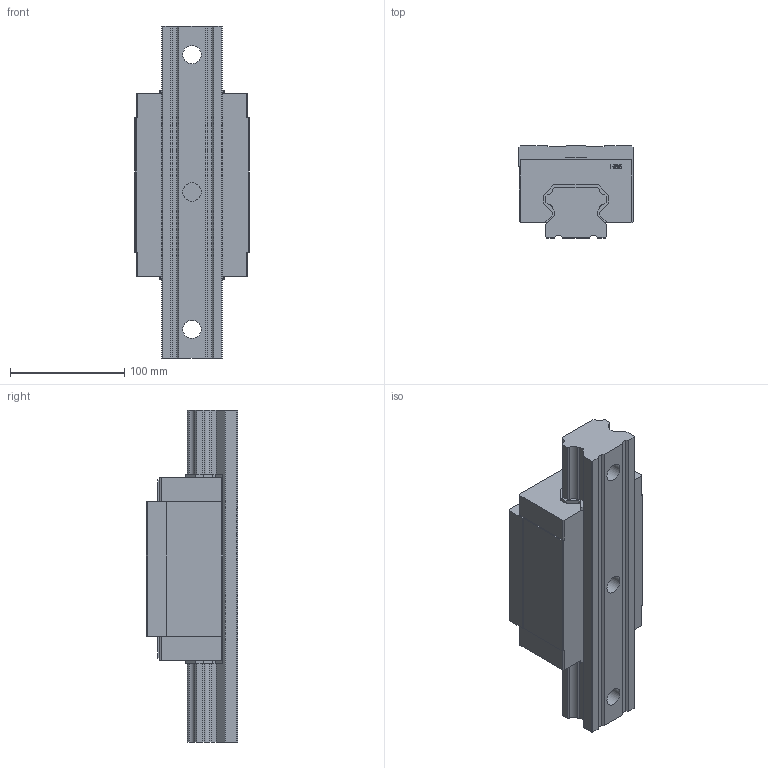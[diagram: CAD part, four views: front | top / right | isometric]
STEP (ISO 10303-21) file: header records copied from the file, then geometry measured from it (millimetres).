
FILE_DESCRIPTION(/* description */ (''),/* implementation_level */ '2;1');
FILE_NAME(/* name */ 'HGH55CA.stp',/* time_stamp */ '2021-05-25T20:55:25+08:00',/* author */ (''),/* organization */ (''),/* preprocessor_version */ 'ST-DEVELOPER v15',/* originating_system */ 'SIEMENS PLM Software NX 8.5',/* authorisation */ '');
FILE_SCHEMA (('CONFIG_CONTROL_DESIGN'));
Length unit declared in the file: millimetre
Products named in the file (1): _model1
Bounding box: 100 x 80 x 290 mm (x, y, z)
Volume: 1333828 mm3; surface area: 148862.3 mm2
Topology: 3 solids, 3 shells, 204 faces, 574 edges, 382 vertices
Faces by surface type: plane 160, cylinder 26, extrusion 14, cone 4
Full cylindrical faces by diameter (mm): 12 x4, 16 x3, 23 x3
Entity records: 6696 total; most frequent: CARTESIAN_POINT 1517, ORIENTED_EDGE 1108, DIRECTION 922, EDGE_CURVE 554, VECTOR 436, LINE 422, VERTEX_POINT 380, AXIS2_PLACEMENT_3D 243
